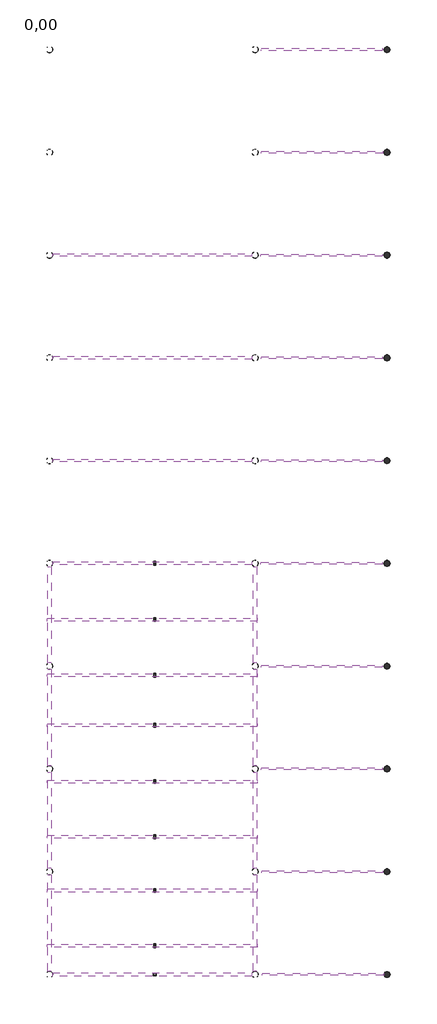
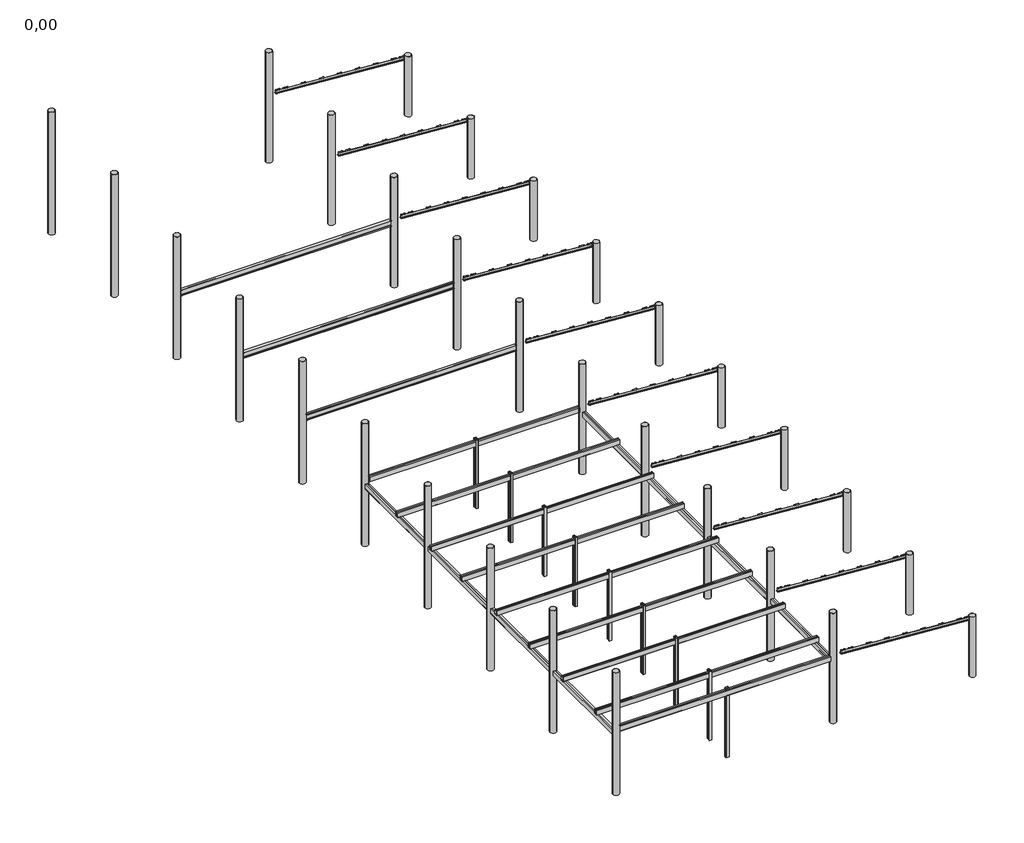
# One storey: 55 columns, 30 beams.
"""IFC4 building model written with IfcOpenShell, lengths in millimetres."""

from ifc_helpers import new_model, si_unit, origin, place, context, project, spatial, transform, mapped, element, save
from components import beam_1_2i300_a4cd45c2, beam_2_c_260_021a14dd, beam_2c_270e_83d6d2ef, beam_2c_270e_b8db1d55, i330pe_6d48d478, c120_7a4876d0, c120_c8b7eb78, c180_2d3c2f65, r355_6x10_451059c9, r355_6x10_30b81005, r355_6x10_7112e704

model = new_model("IFC4")

# Units and contexts
model_context = context("Model", 3, world=origin())
ifc_project = project(units=[si_unit("LENGTHUNIT", "METRE", prefix="MILLI")], contexts=[model_context])

# Site, building, storey
site = spatial("IfcSite", under=ifc_project)
building = spatial("IfcBuilding", under=site)
storey = spatial("IfcBuildingStorey", under=building, Name="0,00", Elevation=0.0)

# Beams
placement = place(None, origin())
beam_1_2i300_shape = beam_1_2i300_a4cd45c2(model_context)
element("IfcBeam", 1, ObjectType="Wzmocnienie do belek - dokładny podział : 1/2I300", at=placement, inside=storey, context=model_context, shape_type="MappedRepresentation", body=[
    mapped(beam_1_2i300_shape, transform((4333.1344195, -36912.318995, 4034.3512677), x_axis=(0.9974611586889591, 0.0, -0.07121261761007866), y_axis=(0.0, 1.0000000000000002, 0.0), z_axis=(0.07121261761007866, 0.0, 0.997461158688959))),
])
element("IfcBeam", 2, ObjectType="Wzmocnienie do belek - dokładny podział : 1/2I300", at=placement, inside=storey, context=model_context, shape_type="MappedRepresentation", body=[
    mapped(beam_1_2i300_shape, transform((4292.3510603, -30911.3173906, 4027.0046972), x_axis=(0.997461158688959, 0.0, -0.0712126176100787), y_axis=(0.0, 1.0, 0.0), z_axis=(0.07121261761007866, 0.0, 0.997461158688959))),
])
element("IfcBeam", 3, ObjectType="Wzmocnienie do belek - dokładny podział : 1/2I300", at=placement, inside=storey, context=model_context, shape_type="MappedRepresentation", body=[
    mapped(beam_1_2i300_shape, transform((4262.3883825, -24909.3570618, 4029.1438488), x_axis=(0.9974611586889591, 0.0, -0.07121261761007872), y_axis=(0.0, 1.0000000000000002, 0.0), z_axis=(0.07121261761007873, 0.0, 0.997461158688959))),
])
element("IfcBeam", 4, ObjectType="Wzmocnienie do belek - dokładny podział : 1/2I300", at=placement, inside=storey, context=model_context, shape_type="MappedRepresentation", body=[
    mapped(beam_1_2i300_shape, transform((4272.7051825, -18911.4095905, 4028.4072925), x_axis=(0.9974611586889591, 0.0, -0.07121261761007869), y_axis=(0.0, 1.0000000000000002, 0.0), z_axis=(0.07121261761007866, 0.0, 0.997461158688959))),
])
element("IfcBeam", 5, ObjectType="Wzmocnienie do belek - dokładny podział : 1/2I300", at=placement, inside=storey, context=model_context, shape_type="MappedRepresentation", body=[
    mapped(beam_1_2i300_shape, transform((4257.2697902, -12910.6408419, 4029.509285), x_axis=(0.997461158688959, 0.0, -0.07121261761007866), y_axis=(0.0, 1.0, 0.0), z_axis=(0.07121261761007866, 0.0, 0.997461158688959))),
])
element("IfcBeam", 6, ObjectType="Wzmocnienie do belek - dokładny podział : 1/2I300", at=placement, inside=storey, context=model_context, shape_type="MappedRepresentation", body=[
    mapped(beam_1_2i300_shape, transform((4265.0414291, -6910.850217, 4028.9544376), x_axis=(0.997461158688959, 0.0, -0.07121261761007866), y_axis=(0.0, 1.0, 0.0), z_axis=(0.07121261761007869, 0.0, 0.997461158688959))),
])
element("IfcBeam", 7, ObjectType="Wzmocnienie do belek - dokładny podział : 1/2I300", at=placement, inside=storey, context=model_context, shape_type="MappedRepresentation", body=[
    mapped(beam_1_2i300_shape, transform((4266.6212077, -910.9235463, 4028.8416511), x_axis=(0.997461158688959, 0.0, -0.07121261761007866), y_axis=(0.0, 1.0, 0.0), z_axis=(0.07121261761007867, 0.0, 0.997461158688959))),
])
element("IfcBeam", 8, ObjectType="Wzmocnienie do belek - dokładny podział : 1/2I300", at=placement, inside=storey, context=model_context, shape_type="MappedRepresentation", body=[
    mapped(beam_1_2i300_shape, transform((4260.7198895, 5087.3362778, 4029.262969), x_axis=(0.9974611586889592, 0.0, -0.07121261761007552), y_axis=(0.0, 1.0000000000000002, 0.0), z_axis=(0.07121261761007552, 0.0, 0.9974611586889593))),
])
element("IfcBeam", 9, ObjectType="Wzmocnienie do belek - dokładny podział : 1/2I300", at=placement, inside=storey, context=model_context, shape_type="MappedRepresentation", body=[
    mapped(beam_1_2i300_shape, transform((4280.7041109, 11085.9754383, 4027.836218), x_axis=(0.997461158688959, 0.0, -0.07121261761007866), y_axis=(0.0, 1.0, 0.0), z_axis=(0.07121261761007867, 0.0, 0.997461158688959))),
])
element("IfcBeam", 10, ObjectType="Wzmocnienie do belek - dokładny podział : 1/2I300", at=placement, inside=storey, context=model_context, shape_type="MappedRepresentation", body=[
    mapped(beam_1_2i300_shape, transform((4273.2402527, 17090.3154767, 4028.3690918), x_axis=(0.9974611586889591, 0.0, -0.07121261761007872), y_axis=(0.0, 1.0000000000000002, 0.0), z_axis=(0.0712126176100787, 0.0, 0.997461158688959))),
])
beam_2_c_260_shape = beam_2_c_260_021a14dd(model_context)
element("IfcBeam", 11, ObjectType="RPLN C - Ceowniki normalne_beamx2 : 2 C 260", at=placement, inside=storey, context=model_context, shape_type="MappedRepresentation", body=[
    mapped(beam_2_c_260_shape, transform((-2097.0111104, -35232.4816585, 3770.0), x_axis=(1.0, 0.0, 0.0), y_axis=(0.0, 1.0, 0.0), z_axis=(0.0, 0.0, 1.0))),
])
element("IfcBeam", 12, ObjectType="RPLN C - Ceowniki normalne_beamx2 : 2C 260", at=placement, inside=storey, context=model_context, shape_type="MappedRepresentation", body=[
    mapped(beam_2_c_260_shape, transform((-2097.0111104, -32012.4816585, 3770.0), x_axis=(1.0, 0.0, 0.0), y_axis=(0.0, 1.0, 0.0), z_axis=(0.0, 0.0, 1.0))),
])
element("IfcBeam", 13, ObjectType="RPLN C - Ceowniki normalne_beamx2 : 2C 260", at=placement, inside=storey, context=model_context, shape_type="MappedRepresentation", body=[
    mapped(beam_2_c_260_shape, transform((-2097.0111104, -28872.4816585, 3770.0), x_axis=(1.0, 0.0, 0.0), y_axis=(0.0, 1.0, 0.0), z_axis=(0.0, 0.0, 1.0))),
])
element("IfcBeam", 14, ObjectType="RPLN C - Ceowniki normalne_beamx2 : 2C 260", at=placement, inside=storey, context=model_context, shape_type="MappedRepresentation", body=[
    mapped(beam_2_c_260_shape, transform((-2097.0111104, -25652.4816585, 3770.0), x_axis=(1.0, 0.0, 0.0), y_axis=(0.0, 1.0, 0.0), z_axis=(0.0, 0.0, 1.0))),
])
element("IfcBeam", 15, ObjectType="RPLN C - Ceowniki normalne_beamx2 : 2C 260", at=placement, inside=storey, context=model_context, shape_type="MappedRepresentation", body=[
    mapped(beam_2_c_260_shape, transform((-2097.0111104, -22362.4816585, 3770.0), x_axis=(1.0, 0.0, 0.0), y_axis=(0.0, 1.0, 0.0), z_axis=(0.0, 0.0, 1.0))),
])
element("IfcBeam", 16, ObjectType="RPLN C - Ceowniki normalne_beamx2 : 2C 260", at=placement, inside=storey, context=model_context, shape_type="MappedRepresentation", body=[
    mapped(beam_2_c_260_shape, transform((-2097.0111104, -19442.4816585, 3770.0), x_axis=(1.0, 0.0, 0.0), y_axis=(0.0, 1.0, 0.0), z_axis=(0.0, 0.0, 1.0))),
])
element("IfcBeam", 17, ObjectType="RPLN C - Ceowniki normalne_beamx2 : 2C 260", at=placement, inside=storey, context=model_context, shape_type="MappedRepresentation", body=[
    mapped(beam_2_c_260_shape, transform((-2097.0111104, -16192.4816585, 3770.0), x_axis=(1.0, 0.0, 0.0), y_axis=(0.0, 1.0, 0.0), z_axis=(0.0, 0.0, 1.0))),
])
beam_2c_270e_shape = beam_2c_270e_83d6d2ef(model_context)
element("IfcBeam", 18, ObjectType="RPLN C - Ceowniki ekonomiczne_beamx2 : 2C 270E", at=placement, inside=storey, context=model_context, shape_type="MappedRepresentation", body=[
    mapped(beam_2c_270e_shape, transform((-8097.0111104, -33912.4816585, 3505.0), x_axis=(0.0, 1.0, 0.0), y_axis=(-1.0, 0.0, 0.0), z_axis=(0.0, 0.0, 1.0))),
])
element("IfcBeam", 19, ObjectType="RPLN C - Ceowniki ekonomiczne_beamx2 : 2C 270E", at=placement, inside=storey, context=model_context, shape_type="MappedRepresentation", body=[
    mapped(beam_2c_270e_shape, transform((-8097.0111104, -27912.4816585, 3505.0), x_axis=(0.0, 1.0, 0.0), y_axis=(-1.0, 0.0, 0.0), z_axis=(0.0, 0.0, 1.0))),
])
element("IfcBeam", 20, ObjectType="RPLN C - Ceowniki ekonomiczne_beamx2 : 2C 270E", at=placement, inside=storey, context=model_context, shape_type="MappedRepresentation", body=[
    mapped(beam_2c_270e_shape, transform((-8097.0111104, -21912.4816585, 3505.0), x_axis=(0.0, 1.0, 0.0), y_axis=(-1.0, 0.0, 0.0), z_axis=(0.0, 0.0, 1.0))),
])
element("IfcBeam", 21, ObjectType="RPLN C - Ceowniki ekonomiczne_beamx2 : 2C 270E", at=placement, inside=storey, context=model_context, shape_type="MappedRepresentation", body=[
    mapped(beam_2c_270e_shape, transform((-8097.0111104, -15912.4816585, 3505.0), x_axis=(0.0, 1.0, 0.0), y_axis=(-1.0, 0.0, 0.0), z_axis=(0.0, 0.0, 1.0))),
])
element("IfcBeam", 22, ObjectType="RPLN C - Ceowniki ekonomiczne_beamx2 : 2C 270E", at=placement, inside=storey, context=model_context, shape_type="MappedRepresentation", body=[
    mapped(beam_2c_270e_shape, transform((3902.9888896, -15912.4816585, 3505.0), x_axis=(0.0, -1.0, 0.0), y_axis=(1.0, 0.0, 0.0), z_axis=(0.0, 0.0, 1.0))),
])
element("IfcBeam", 23, ObjectType="RPLN C - Ceowniki ekonomiczne_beamx2 : 2C 270E", at=placement, inside=storey, context=model_context, shape_type="MappedRepresentation", body=[
    mapped(beam_2c_270e_shape, transform((3902.9888896, -21912.4816585, 3505.0), x_axis=(0.0, -1.0, 0.0), y_axis=(1.0, 0.0, 0.0), z_axis=(0.0, 0.0, 1.0))),
])
element("IfcBeam", 24, ObjectType="RPLN C - Ceowniki ekonomiczne_beamx2 : 2C 270E", at=placement, inside=storey, context=model_context, shape_type="MappedRepresentation", body=[
    mapped(beam_2c_270e_shape, transform((3902.9888896, -27912.4816585, 3505.0), x_axis=(0.0, -1.0, 0.0), y_axis=(1.0, 0.0, 0.0), z_axis=(0.0, 0.0, 1.0))),
])
element("IfcBeam", 25, ObjectType="RPLN C - Ceowniki ekonomiczne_beamx2 : 2C 270E", at=placement, inside=storey, context=model_context, shape_type="MappedRepresentation", body=[
    mapped(beam_2c_270e_shape, transform((3902.9888896, -33912.4816585, 3505.0), x_axis=(0.0, -1.0, 0.0), y_axis=(1.0, 0.0, 0.0), z_axis=(0.0, 0.0, 1.0))),
])
beam_2c_270e_2_shape = beam_2c_270e_b8db1d55(model_context)
element("IfcBeam", 26, ObjectType="RPLN C - Ceowniki ekonomiczne_beamx2 : 2C 270E", at=placement, inside=storey, context=model_context, shape_type="MappedRepresentation", body=[
    mapped(beam_2c_270e_2_shape, transform((-2097.0111104, -12912.4816585, 3765.0), x_axis=(1.0, 0.0, 0.0), y_axis=(0.0, 1.0, 0.0), z_axis=(0.0, 0.0, 1.0))),
])
element("IfcBeam", 27, ObjectType="RPLN C - Ceowniki ekonomiczne_beamx2 : 2C 270E", at=placement, inside=storey, context=model_context, shape_type="MappedRepresentation", body=[
    mapped(beam_2c_270e_2_shape, transform((-2097.0111104, -36912.4816585, 3765.0), x_axis=(-1.0, 0.0, 0.0), y_axis=(0.0, -1.0, 0.0), z_axis=(0.0, 0.0, 1.0))),
])
i330pe_shape = i330pe_6d48d478(model_context)
element("IfcBeam", 28, ObjectType="RPLN IPE - Dwuteowniki równoległościenne : I330PE", at=placement, inside=storey, context=model_context, shape_type="MappedRepresentation", body=[
    mapped(i330pe_shape, transform((-2097.0111104, -6912.4816585, 3735.0), x_axis=(1.0, 0.0, 0.0), y_axis=(0.0, 1.0, 0.0), z_axis=(0.0, 0.0, 1.0))),
])
element("IfcBeam", 29, ObjectType="RPLN IPE - Dwuteowniki równoległościenne : I330PE", at=placement, inside=storey, context=model_context, shape_type="MappedRepresentation", body=[
    mapped(i330pe_shape, transform((-2097.0111104, -912.4816585, 3735.0), x_axis=(1.0, 0.0, 0.0), y_axis=(0.0, 1.0, 0.0), z_axis=(0.0, 0.0, 1.0))),
])
element("IfcBeam", 30, ObjectType="RPLN IPE - Dwuteowniki równoległościenne : I330PE", at=placement, inside=storey, context=model_context, shape_type="MappedRepresentation", body=[
    mapped(i330pe_shape, transform((-2097.0111104, 5087.5183415, 3735.0), x_axis=(1.0, 0.0, 0.0), y_axis=(0.0, 1.0, 0.0), z_axis=(0.0, 0.0, 1.0))),
])

# Columns
c120_shape = c120_7a4876d0(model_context)
element("IfcColumn", 31, ObjectType="RPLN C - Ceowniki normalne_Column : C120", at=placement, inside=storey, context=model_context, shape_type="MappedRepresentation", body=[
    mapped(c120_shape, transform((-1957.0111104, -12818.4816585, 0.0), x_axis=(0.0, -1.0, 0.0), y_axis=(1.0, 0.0, 0.0), z_axis=(0.0, 0.0, 1.0))),
])
element("IfcColumn", 32, ObjectType="RPLN C - Ceowniki normalne_Column : C120", at=placement, inside=storey, context=model_context, shape_type="MappedRepresentation", body=[
    mapped(c120_shape, transform((-1957.0111104, -13006.4816585, 0.0), x_axis=(0.0, 1.0, 0.0), y_axis=(-1.0, 0.0, 0.0), z_axis=(0.0, 0.0, 1.0))),
])
element("IfcColumn", 33, ObjectType="RPLN C - Ceowniki normalne_Column : C120", at=placement, inside=storey, context=model_context, shape_type="MappedRepresentation", body=[
    mapped(c120_shape, transform((-1957.0111104, -16098.4816585, 0.0), x_axis=(0.0, -1.0, 0.0), y_axis=(1.0, 0.0, 0.0), z_axis=(0.0, 0.0, 1.0))),
])
element("IfcColumn", 34, ObjectType="RPLN C - Ceowniki normalne_Column : C120", at=placement, inside=storey, context=model_context, shape_type="MappedRepresentation", body=[
    mapped(c120_shape, transform((-1957.0111104, -16286.4816585, 0.0), x_axis=(0.0, 1.0, 0.0), y_axis=(-1.0, 0.0, 0.0), z_axis=(0.0, 0.0, 1.0))),
])
element("IfcColumn", 35, ObjectType="RPLN C - Ceowniki normalne_Column : C120", at=placement, inside=storey, context=model_context, shape_type="MappedRepresentation", body=[
    mapped(c120_shape, transform((-1957.0111104, -19348.4816585, 0.0), x_axis=(0.0, -1.0, 0.0), y_axis=(1.0, 0.0, 0.0), z_axis=(0.0, 0.0, 1.0))),
])
element("IfcColumn", 36, ObjectType="RPLN C - Ceowniki normalne_Column : C120", at=placement, inside=storey, context=model_context, shape_type="MappedRepresentation", body=[
    mapped(c120_shape, transform((-1957.0111104, -19536.4816585, 0.0), x_axis=(0.0, 1.0, 0.0), y_axis=(-1.0, 0.0, 0.0), z_axis=(0.0, 0.0, 1.0))),
])
element("IfcColumn", 37, ObjectType="RPLN C - Ceowniki normalne_Column : C120", at=placement, inside=storey, context=model_context, shape_type="MappedRepresentation", body=[
    mapped(c120_shape, transform((-1957.0111104, -22268.4816585, 0.0), x_axis=(0.0, -1.0, 0.0), y_axis=(1.0, 0.0, 0.0), z_axis=(0.0, 0.0, 1.0))),
])
element("IfcColumn", 38, ObjectType="RPLN C - Ceowniki normalne_Column : C120", at=placement, inside=storey, context=model_context, shape_type="MappedRepresentation", body=[
    mapped(c120_shape, transform((-1957.0111104, -22456.4816585, 0.0), x_axis=(0.0, 1.0, 0.0), y_axis=(-1.0, 0.0, 0.0), z_axis=(0.0, 0.0, 1.0))),
])
element("IfcColumn", 39, ObjectType="RPLN C - Ceowniki normalne_Column : C120", at=placement, inside=storey, context=model_context, shape_type="MappedRepresentation", body=[
    mapped(c120_shape, transform((-1957.0111104, -25558.4816585, 0.0), x_axis=(0.0, -1.0, 0.0), y_axis=(1.0, 0.0, 0.0), z_axis=(0.0, 0.0, 1.0))),
])
element("IfcColumn", 40, ObjectType="RPLN C - Ceowniki normalne_Column : C120", at=placement, inside=storey, context=model_context, shape_type="MappedRepresentation", body=[
    mapped(c120_shape, transform((-1957.0111104, -25746.4816585, 0.0), x_axis=(0.0, 1.0, 0.0), y_axis=(-1.0, 0.0, 0.0), z_axis=(0.0, 0.0, 1.0))),
])
element("IfcColumn", 41, ObjectType="RPLN C - Ceowniki normalne_Column : C120", at=placement, inside=storey, context=model_context, shape_type="MappedRepresentation", body=[
    mapped(c120_shape, transform((-1957.0111104, -28778.4816585, 0.0), x_axis=(0.0, -1.0, 0.0), y_axis=(1.0, 0.0, 0.0), z_axis=(0.0, 0.0, 1.0))),
])
element("IfcColumn", 42, ObjectType="RPLN C - Ceowniki normalne_Column : C120", at=placement, inside=storey, context=model_context, shape_type="MappedRepresentation", body=[
    mapped(c120_shape, transform((-1957.0111104, -28966.4816585, 0.0), x_axis=(0.0, 1.0, 0.0), y_axis=(-1.0, 0.0, 0.0), z_axis=(0.0, 0.0, 1.0))),
])
element("IfcColumn", 43, ObjectType="RPLN C - Ceowniki normalne_Column : C120", at=placement, inside=storey, context=model_context, shape_type="MappedRepresentation", body=[
    mapped(c120_shape, transform((-1957.0111104, -31918.4816585, 0.0), x_axis=(0.0, -1.0, 0.0), y_axis=(1.0, 0.0, 0.0), z_axis=(0.0, 0.0, 1.0))),
])
element("IfcColumn", 44, ObjectType="RPLN C - Ceowniki normalne_Column : C120", at=placement, inside=storey, context=model_context, shape_type="MappedRepresentation", body=[
    mapped(c120_shape, transform((-1957.0111104, -32106.4816585, 0.0), x_axis=(0.0, 1.0, 0.0), y_axis=(-1.0, 0.0, 0.0), z_axis=(0.0, 0.0, 1.0))),
])
element("IfcColumn", 45, ObjectType="RPLN C - Ceowniki normalne_Column : C120", at=placement, inside=storey, context=model_context, shape_type="MappedRepresentation", body=[
    mapped(c120_shape, transform((-1957.0111104, -35138.4816585, 0.0), x_axis=(0.0, -1.0, 0.0), y_axis=(1.0, 0.0, 0.0), z_axis=(0.0, 0.0, 1.0))),
])
element("IfcColumn", 46, ObjectType="RPLN C - Ceowniki normalne_Column : C120", at=placement, inside=storey, context=model_context, shape_type="MappedRepresentation", body=[
    mapped(c120_shape, transform((-1957.0111104, -35326.4816585, 0.0), x_axis=(0.0, 1.0, 0.0), y_axis=(-1.0, 0.0, 0.0), z_axis=(0.0, 0.0, 1.0))),
])
c120_2_shape = c120_c8b7eb78(model_context)
element("IfcColumn", 47, ObjectType="RPLN C - Ceowniki normalne_Column -x2 : C120", at=placement, inside=storey, context=model_context, shape_type="MappedRepresentation", body=[
    mapped(c120_2_shape, transform((-1957.0111104, -12912.4816585, 0.0), x_axis=(0.0, 1.0, 0.0), y_axis=(-1.0, 0.0, 0.0), z_axis=(0.0, 0.0, 1.0))),
])
element("IfcColumn", 48, ObjectType="RPLN C - Ceowniki normalne_Column -x2 : C120", at=placement, inside=storey, context=model_context, shape_type="MappedRepresentation", body=[
    mapped(c120_2_shape, transform((-1957.0111104, -16192.4816585, 0.0), x_axis=(0.0, -1.0, 0.0), y_axis=(1.0, 0.0, 0.0), z_axis=(0.0, 0.0, 1.0))),
])
element("IfcColumn", 49, ObjectType="RPLN C - Ceowniki normalne_Column -x2 : C120", at=placement, inside=storey, context=model_context, shape_type="MappedRepresentation", body=[
    mapped(c120_2_shape, transform((-1957.0111104, -19442.4816585, 0.0), x_axis=(0.0, -1.0, 0.0), y_axis=(1.0, 0.0, 0.0), z_axis=(0.0, 0.0, 1.0))),
])
element("IfcColumn", 50, ObjectType="RPLN C - Ceowniki normalne_Column -x2 : C120", at=placement, inside=storey, context=model_context, shape_type="MappedRepresentation", body=[
    mapped(c120_2_shape, transform((-1957.0111104, -22362.4816585, 0.0), x_axis=(0.0, -1.0, 0.0), y_axis=(1.0, 0.0, 0.0), z_axis=(0.0, 0.0, 1.0))),
])
element("IfcColumn", 51, ObjectType="RPLN C - Ceowniki normalne_Column -x2 : C120", at=placement, inside=storey, context=model_context, shape_type="MappedRepresentation", body=[
    mapped(c120_2_shape, transform((-1957.0111104, -25652.4816585, 0.0), x_axis=(0.0, -1.0, 0.0), y_axis=(1.0, 0.0, 0.0), z_axis=(0.0, 0.0, 1.0))),
])
element("IfcColumn", 52, ObjectType="RPLN C - Ceowniki normalne_Column -x2 : C120", at=placement, inside=storey, context=model_context, shape_type="MappedRepresentation", body=[
    mapped(c120_2_shape, transform((-1957.0111104, -28872.4816585, 0.0), x_axis=(0.0, -1.0, 0.0), y_axis=(1.0, 0.0, 0.0), z_axis=(0.0, 0.0, 1.0))),
])
element("IfcColumn", 53, ObjectType="RPLN C - Ceowniki normalne_Column -x2 : C120", at=placement, inside=storey, context=model_context, shape_type="MappedRepresentation", body=[
    mapped(c120_2_shape, transform((-1957.0111104, -32012.4816585, 0.0), x_axis=(0.0, -1.0, 0.0), y_axis=(1.0, 0.0, 0.0), z_axis=(0.0, 0.0, 1.0))),
])
element("IfcColumn", 54, ObjectType="RPLN C - Ceowniki normalne_Column -x2 : C120", at=placement, inside=storey, context=model_context, shape_type="MappedRepresentation", body=[
    mapped(c120_2_shape, transform((-1957.0111104, -35232.4816585, 0.0), x_axis=(0.0, -1.0, 0.0), y_axis=(1.0, 0.0, 0.0), z_axis=(0.0, 0.0, 1.0))),
])
c180_shape = c180_2d3c2f65(model_context)
element("IfcColumn", 55, ObjectType="RPLN C - Ceowniki normalne_Column -x2 : C180", at=placement, inside=storey, context=model_context, shape_type="MappedRepresentation", body=[
    mapped(c180_shape, transform((-1957.0111104, -36912.4816585, 0.0), x_axis=(0.0, 1.0, 0.0), y_axis=(-1.0, 0.0, 0.0), z_axis=(0.0, 0.0, 1.0))),
])
r355_6x10_shape = r355_6x10_451059c9(model_context)
element("IfcColumn", 56, ObjectType="RPLN RO - Rury okragle_Column : R355.6x10", at=placement, inside=storey, context=model_context, shape_type="MappedRepresentation", body=[
    mapped(r355_6x10_shape, transform((3902.9888896, -36912.4816585, 0.0), x_axis=(-1.0, 0.0, 0.0), y_axis=(0.0, -1.0, 0.0), z_axis=(0.0, 0.0, 1.0))),
])
element("IfcColumn", 57, ObjectType="RPLN RO - Rury okragle_Column : R355.6x10", at=placement, inside=storey, context=model_context, shape_type="MappedRepresentation", body=[
    mapped(r355_6x10_shape, transform((3902.9888896, -30912.4816585, 0.0), x_axis=(-1.0, 0.0, 0.0), y_axis=(0.0, -1.0, 0.0), z_axis=(0.0, 0.0, 1.0))),
])
element("IfcColumn", 58, ObjectType="RPLN RO - Rury okragle_Column : R355.6x10", at=placement, inside=storey, context=model_context, shape_type="MappedRepresentation", body=[
    mapped(r355_6x10_shape, transform((3902.9888896, -24912.4816585, 0.0), x_axis=(-1.0, 0.0, 0.0), y_axis=(0.0, -1.0, 0.0), z_axis=(0.0, 0.0, 1.0))),
])
element("IfcColumn", 59, ObjectType="RPLN RO - Rury okragle_Column : R355.6x10", at=placement, inside=storey, context=model_context, shape_type="MappedRepresentation", body=[
    mapped(r355_6x10_shape, transform((3902.9888896, -18912.4816585, 0.0), x_axis=(-1.0, 0.0, 0.0), y_axis=(0.0, -1.0, 0.0), z_axis=(0.0, 0.0, 1.0))),
])
element("IfcColumn", 60, ObjectType="RPLN RO - Rury okragle_Column : R355.6x10", at=placement, inside=storey, context=model_context, shape_type="MappedRepresentation", body=[
    mapped(r355_6x10_shape, transform((3902.9888896, -12912.4816585, 0.0), x_axis=(-1.0, 0.0, 0.0), y_axis=(0.0, -1.0, 0.0), z_axis=(0.0, 0.0, 1.0))),
])
element("IfcColumn", 61, ObjectType="RPLN RO - Rury okragle_Column : R355.6x10", at=placement, inside=storey, context=model_context, shape_type="MappedRepresentation", body=[
    mapped(r355_6x10_shape, transform((3902.9888896, -6912.4816585, 0.0), x_axis=(-1.0, 0.0, 0.0), y_axis=(0.0, -1.0, 0.0), z_axis=(0.0, 0.0, 1.0))),
])
element("IfcColumn", 62, ObjectType="RPLN RO - Rury okragle_Column : R355.6x10", at=placement, inside=storey, context=model_context, shape_type="MappedRepresentation", body=[
    mapped(r355_6x10_shape, transform((3902.9888896, -912.4816585, 0.0), x_axis=(-1.0, 0.0, 0.0), y_axis=(0.0, -1.0, 0.0), z_axis=(0.0, 0.0, 1.0))),
])
element("IfcColumn", 63, ObjectType="RPLN RO - Rury okragle_Column : R355.6x10", at=placement, inside=storey, context=model_context, shape_type="MappedRepresentation", body=[
    mapped(r355_6x10_shape, transform((3902.9888896, 5087.5183415, 0.0), x_axis=(1.0, 0.0, 0.0), y_axis=(0.0, 1.0, 0.0), z_axis=(0.0, 0.0, 1.0))),
])
element("IfcColumn", 64, ObjectType="RPLN RO - Rury okragle_Column : R355.6x10", at=placement, inside=storey, context=model_context, shape_type="MappedRepresentation", body=[
    mapped(r355_6x10_shape, transform((3902.9888896, 11087.5183415, 0.0), x_axis=(-1.0, 0.0, 0.0), y_axis=(0.0, -1.0, 0.0), z_axis=(0.0, 0.0, 1.0))),
])
element("IfcColumn", 65, ObjectType="RPLN RO - Rury okragle_Column : R355.6x10", at=placement, inside=storey, context=model_context, shape_type="MappedRepresentation", body=[
    mapped(r355_6x10_shape, transform((3902.9888896, 17087.5183415, 0.0), x_axis=(-1.0, 0.0, 0.0), y_axis=(0.0, -1.0, 0.0), z_axis=(0.0, 0.0, 1.0))),
])
r355_6x10_2_shape = r355_6x10_30b81005(model_context)
element("IfcColumn", 66, ObjectType="RPLN RO - Rury okragle_Column : R355.6x10", at=placement, inside=storey, context=model_context, shape_type="MappedRepresentation", body=[
    mapped(r355_6x10_2_shape, transform((-8097.0111104, -36912.4816585, 0.0), x_axis=(-1.0, 0.0, 0.0), y_axis=(0.0, -1.0, 0.0), z_axis=(0.0, 0.0, 1.0))),
])
element("IfcColumn", 67, ObjectType="RPLN RO - Rury okragle_Column : R355.6x10", at=placement, inside=storey, context=model_context, shape_type="MappedRepresentation", body=[
    mapped(r355_6x10_2_shape, transform((-8097.0111104, -30912.4816585, 0.0), x_axis=(-1.0, 0.0, 0.0), y_axis=(0.0, -1.0, 0.0), z_axis=(0.0, 0.0, 1.0))),
])
element("IfcColumn", 68, ObjectType="RPLN RO - Rury okragle_Column : R355.6x10", at=placement, inside=storey, context=model_context, shape_type="MappedRepresentation", body=[
    mapped(r355_6x10_2_shape, transform((-8097.0111104, -24912.4816585, 0.0), x_axis=(-1.0, 0.0, 0.0), y_axis=(0.0, -1.0, 0.0), z_axis=(0.0, 0.0, 1.0))),
])
element("IfcColumn", 69, ObjectType="RPLN RO - Rury okragle_Column : R355.6x10", at=placement, inside=storey, context=model_context, shape_type="MappedRepresentation", body=[
    mapped(r355_6x10_2_shape, transform((-8097.0111104, -18912.4816585, 0.0), x_axis=(-1.0, 0.0, 0.0), y_axis=(0.0, -1.0, 0.0), z_axis=(0.0, 0.0, 1.0))),
])
element("IfcColumn", 70, ObjectType="RPLN RO - Rury okragle_Column : R355.6x10", at=placement, inside=storey, context=model_context, shape_type="MappedRepresentation", body=[
    mapped(r355_6x10_2_shape, transform((-8097.0111104, -12912.4816585, 0.0), x_axis=(-1.0, 0.0, 0.0), y_axis=(0.0, -1.0, 0.0), z_axis=(0.0, 0.0, 1.0))),
])
element("IfcColumn", 71, ObjectType="RPLN RO - Rury okragle_Column : R355.6x10", at=placement, inside=storey, context=model_context, shape_type="MappedRepresentation", body=[
    mapped(r355_6x10_2_shape, transform((-8097.0111104, -6912.4816585, 0.0), x_axis=(-1.0, 0.0, 0.0), y_axis=(0.0, -1.0, 0.0), z_axis=(0.0, 0.0, 1.0))),
])
element("IfcColumn", 72, ObjectType="RPLN RO - Rury okragle_Column : R355.6x10", at=placement, inside=storey, context=model_context, shape_type="MappedRepresentation", body=[
    mapped(r355_6x10_2_shape, transform((-8097.0111104, -912.4816585, 0.0), x_axis=(-1.0, 0.0, 0.0), y_axis=(0.0, -1.0, 0.0), z_axis=(0.0, 0.0, 1.0))),
])
element("IfcColumn", 73, ObjectType="RPLN RO - Rury okragle_Column : R355.6x10", at=placement, inside=storey, context=model_context, shape_type="MappedRepresentation", body=[
    mapped(r355_6x10_2_shape, transform((-8097.0111104, 5087.5183415, 0.0), x_axis=(1.0, 0.0, 0.0), y_axis=(0.0, 1.0, 0.0), z_axis=(0.0, 0.0, 1.0))),
])
element("IfcColumn", 74, ObjectType="RPLN RO - Rury okragle_Column : R355.6x10", at=placement, inside=storey, context=model_context, shape_type="MappedRepresentation", body=[
    mapped(r355_6x10_2_shape, transform((-8097.0111104, 11087.5183415, 0.0), x_axis=(-1.0, 0.0, 0.0), y_axis=(0.0, -1.0, 0.0), z_axis=(0.0, 0.0, 1.0))),
])
element("IfcColumn", 75, ObjectType="RPLN RO - Rury okragle_Column : R355.6x10", at=placement, inside=storey, context=model_context, shape_type="MappedRepresentation", body=[
    mapped(r355_6x10_2_shape, transform((-8097.0111104, 17087.5183415, 0.0), x_axis=(-1.0, 0.0, 0.0), y_axis=(0.0, -1.0, 0.0), z_axis=(0.0, 0.0, 1.0))),
])
r355_6x10_3_shape = r355_6x10_7112e704(model_context)
element("IfcColumn", 76, ObjectType="RPLN RO - Rury okragle_Column : R355.6x10", at=placement, inside=storey, context=model_context, shape_type="MappedRepresentation", body=[
    mapped(r355_6x10_3_shape, transform((11602.963474, -36912.4816585, 0.0), x_axis=(-1.0, 0.0, 0.0), y_axis=(0.0, -1.0, 0.0), z_axis=(0.0, 0.0, 1.0))),
])
element("IfcColumn", 77, ObjectType="RPLN RO - Rury okragle_Column : R355.6x10", at=placement, inside=storey, context=model_context, shape_type="MappedRepresentation", body=[
    mapped(r355_6x10_3_shape, transform((11602.963474, -30912.4816585, 0.0), x_axis=(-1.0, 0.0, 0.0), y_axis=(0.0, -1.0, 0.0), z_axis=(0.0, 0.0, 1.0))),
])
element("IfcColumn", 78, ObjectType="RPLN RO - Rury okragle_Column : R355.6x10", at=placement, inside=storey, context=model_context, shape_type="MappedRepresentation", body=[
    mapped(r355_6x10_3_shape, transform((11602.963474, -24912.4816585, 0.0), x_axis=(-1.0, 0.0, 0.0), y_axis=(0.0, -1.0, 0.0), z_axis=(0.0, 0.0, 1.0))),
])
element("IfcColumn", 79, ObjectType="RPLN RO - Rury okragle_Column : R355.6x10", at=placement, inside=storey, context=model_context, shape_type="MappedRepresentation", body=[
    mapped(r355_6x10_3_shape, transform((11602.963474, -18912.4816585, 0.0), x_axis=(-1.0, 0.0, 0.0), y_axis=(0.0, -1.0, 0.0), z_axis=(0.0, 0.0, 1.0))),
])
element("IfcColumn", 80, ObjectType="RPLN RO - Rury okragle_Column : R355.6x10", at=placement, inside=storey, context=model_context, shape_type="MappedRepresentation", body=[
    mapped(r355_6x10_3_shape, transform((11602.963474, -12912.4816585, 0.0), x_axis=(-1.0, 0.0, 0.0), y_axis=(0.0, -1.0, 0.0), z_axis=(0.0, 0.0, 1.0))),
])
element("IfcColumn", 81, ObjectType="RPLN RO - Rury okragle_Column : R355.6x10", at=placement, inside=storey, context=model_context, shape_type="MappedRepresentation", body=[
    mapped(r355_6x10_3_shape, transform((11602.963474, -6912.4816585, 0.0), x_axis=(-1.0, 0.0, 0.0), y_axis=(0.0, -1.0, 0.0), z_axis=(0.0, 0.0, 1.0))),
])
element("IfcColumn", 82, ObjectType="RPLN RO - Rury okragle_Column : R355.6x10", at=placement, inside=storey, context=model_context, shape_type="MappedRepresentation", body=[
    mapped(r355_6x10_3_shape, transform((11602.963474, -912.4816585, 0.0), x_axis=(-1.0, 0.0, 0.0), y_axis=(0.0, -1.0, 0.0), z_axis=(0.0, 0.0, 1.0))),
])
element("IfcColumn", 83, ObjectType="RPLN RO - Rury okragle_Column : R355.6x10", at=placement, inside=storey, context=model_context, shape_type="MappedRepresentation", body=[
    mapped(r355_6x10_3_shape, transform((11602.963474, 5087.5183415, 0.0), x_axis=(1.0, 0.0, 0.0), y_axis=(0.0, 1.0, 0.0), z_axis=(0.0, 0.0, 1.0))),
])
element("IfcColumn", 84, ObjectType="RPLN RO - Rury okragle_Column : R355.6x10", at=placement, inside=storey, context=model_context, shape_type="MappedRepresentation", body=[
    mapped(r355_6x10_3_shape, transform((11602.963474, 11087.5183415, 0.0), x_axis=(-1.0, 0.0, 0.0), y_axis=(0.0, -1.0, 0.0), z_axis=(0.0, 0.0, 1.0))),
])
element("IfcColumn", 85, ObjectType="RPLN RO - Rury okragle_Column : R355.6x10", at=placement, inside=storey, context=model_context, shape_type="MappedRepresentation", body=[
    mapped(r355_6x10_3_shape, transform((11602.963474, 17087.5183415, 0.0), x_axis=(-1.0, 0.0, 0.0), y_axis=(0.0, -1.0, 0.0), z_axis=(0.0, 0.0, 1.0))),
])

save(model, "model.ifc")
